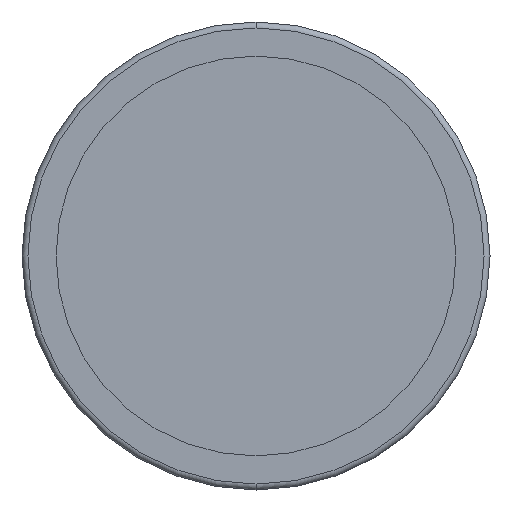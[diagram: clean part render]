
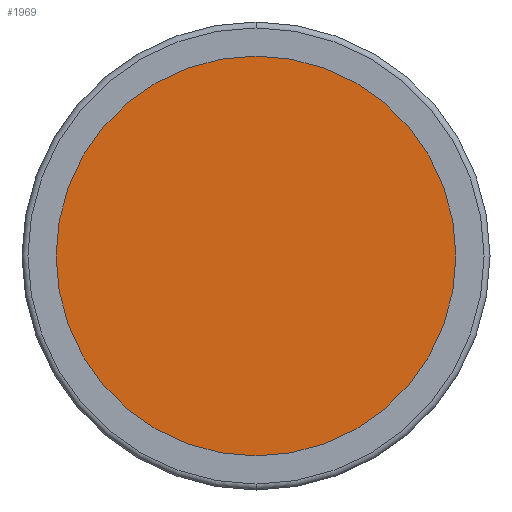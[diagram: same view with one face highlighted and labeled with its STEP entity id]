
A CAD part, front view. The second image highlights one B-rep face of the part: STEP entity #1969.
In plain terms, the highlighted planar face has unit normal (0, -1, 0).
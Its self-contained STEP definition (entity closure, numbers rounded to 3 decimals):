
#496 = DIRECTION ( 'NONE',  ( 0., 0., 1. ) ) ;
#615 = CIRCLE ( 'NONE', #1759, 33.75 ) ;
#947 = CARTESIAN_POINT ( 'NONE',  ( 0., -2., 0. ) ) ;
#1024 = AXIS2_PLACEMENT_3D ( 'NONE', #3166, #1939, #1642 ) ;
#1297 = VERTEX_POINT ( 'NONE', #2294 ) ;
#1348 = AXIS2_PLACEMENT_3D ( 'NONE', #2715, #1692, #496 ) ;
#1406 = DIRECTION ( 'NONE',  ( 0., 1., 0. ) ) ;
#1642 = DIRECTION ( 'NONE',  ( 0., 0., -1. ) ) ;
#1688 = VERTEX_POINT ( 'NONE', #2814 ) ;
#1692 = DIRECTION ( 'NONE',  ( 0., 1., 0. ) ) ;
#1759 = AXIS2_PLACEMENT_3D ( 'NONE', #947, #1406, #2422 ) ;
#1939 = DIRECTION ( 'NONE',  ( 0., -1., 0. ) ) ;
#1969 = ADVANCED_FACE ( 'NONE', ( #2395 ), #3133, .T. ) ;
#2026 = EDGE_CURVE ( 'NONE', #1297, #1688, #615, .T. ) ;
#2294 = CARTESIAN_POINT ( 'NONE',  ( 0., -2., -33.75 ) ) ;
#2395 = FACE_OUTER_BOUND ( 'NONE', #3023, .T. ) ;
#2404 = EDGE_CURVE ( 'NONE', #1688, #1297, #3201, .T. ) ;
#2422 = DIRECTION ( 'NONE',  ( 0., 0., 1. ) ) ;
#2432 = ORIENTED_EDGE ( 'NONE', *, *, #2404, .F. ) ;
#2715 = CARTESIAN_POINT ( 'NONE',  ( 0., -2., 0. ) ) ;
#2814 = CARTESIAN_POINT ( 'NONE',  ( 0., -2., 33.75 ) ) ;
#2961 = ORIENTED_EDGE ( 'NONE', *, *, #2026, .F. ) ;
#3023 = EDGE_LOOP ( 'NONE', ( #2432, #2961 ) ) ;
#3133 = PLANE ( 'NONE',  #1024 ) ;
#3166 = CARTESIAN_POINT ( 'NONE',  ( -33.75, -2., 0. ) ) ;
#3201 = CIRCLE ( 'NONE', #1348, 33.75 ) ;
